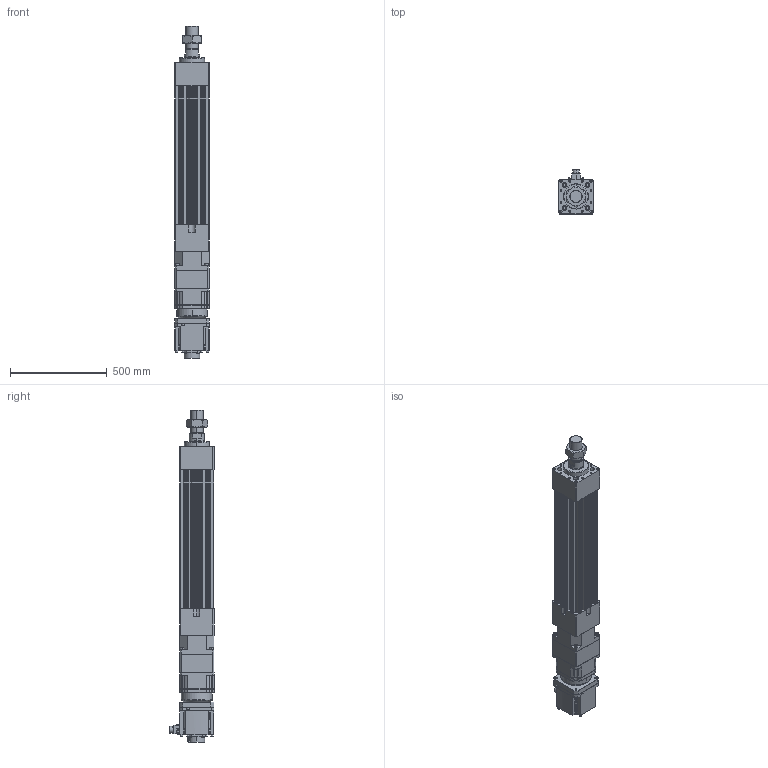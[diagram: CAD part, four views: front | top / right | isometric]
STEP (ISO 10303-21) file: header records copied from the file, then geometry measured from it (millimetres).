
FILE_DESCRIPTION (( 'STEP AP203' ), '1' );
FILE_NAME ('HES180HS-S400-W050G00-M.STEP', '2023-02-01T09:43:30', ( 'tms' ), ( '' ), 'SwSTEP 2.0', 'SolidWorks 2013', '' );
FILE_SCHEMA (( 'CONFIG_CONTROL_DESIGN' ));
Length unit declared in the file: millimetre
Products named in the file (9): P1301600001; AB180-003[HG-SR702B]; HG-SR502; M64X2.0P; HES180HS-S400-W050G00-M; HES180-S400-G180; HES180 ROD M ST400; P0403600401; AB1801
Assembly tree (8 placements, depth 3):
  HES180HS-S400-W050G00-M
    HES180-S400-G180
    HES180 ROD M ST400
    M64X2.0P
    AB180-003[HG-SR702B]
      AB1801
      P1301600001
      P0403600401
    HG-SR502
Bounding box: 180 x 230.85 x 1717 mm (x, y, z)
Volume: 25488009.4 mm3; surface area: 2380476.4 mm2
Topology: 4 solids, 23 shells, 1534 faces, 3945 edges, 2546 vertices
Faces by surface type: cylinder 693, plane 600, cone 174, bspline 63, torus 4
Entity records: 55246 total; most frequent: CARTESIAN_POINT 16431, DIRECTION 8177, ORIENTED_EDGE 7750, EDGE_CURVE 3899, AXIS2_PLACEMENT_3D 3072, VERTEX_POINT 2546, LINE 2033, VECTOR 2033
